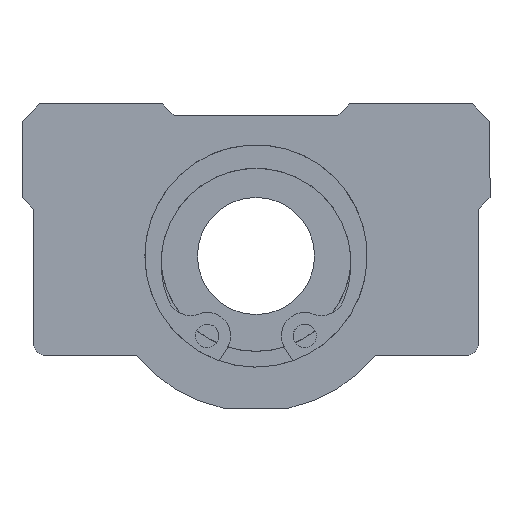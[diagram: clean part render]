
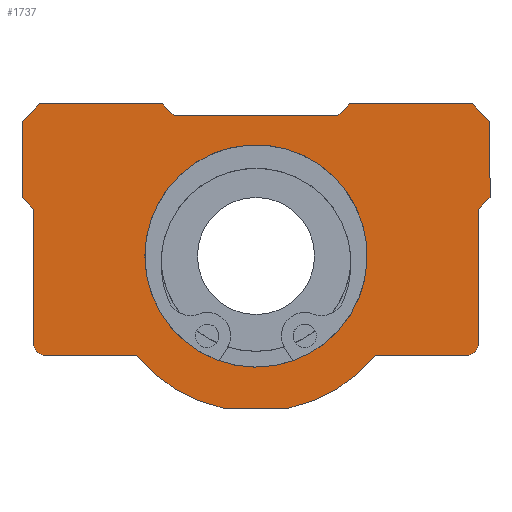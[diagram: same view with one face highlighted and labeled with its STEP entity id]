
A CAD part, left-side view. The second image highlights one B-rep face of the part: STEP entity #1737.
In plain terms, the highlighted planar face has unit normal (-1, 0, 0).
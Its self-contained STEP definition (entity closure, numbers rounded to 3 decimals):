
#1279=CARTESIAN_POINT('',(0.0,9.5,0.));
#1280=VERTEX_POINT('',#1279);
#1281=CARTESIAN_POINT('',(0.0,0.0,0.0));
#1282=DIRECTION('',(1.0,0.0,0.0));
#1283=DIRECTION('',(0.0,-1.0,0.0));
#1284=AXIS2_PLACEMENT_3D('',#1281,#1282,#1283);
#1285=CIRCLE('',#1284,9.5);
#1286=EDGE_CURVE('',#1280,#1280,#1285,.T.);
#1313=CARTESIAN_POINT('',(0.0,18.,-8.5));
#1314=VERTEX_POINT('',#1313);
#1321=CARTESIAN_POINT('',(0.0,19.,-7.5));
#1322=VERTEX_POINT('',#1321);
#1323=CARTESIAN_POINT('',(0.0,18.,-7.5));
#1324=DIRECTION('',(1.,0.0,0.0));
#1325=DIRECTION('',(0.0,0.707,-0.707));
#1326=AXIS2_PLACEMENT_3D('',#1323,#1324,#1325);
#1327=CIRCLE('',#1326,1.);
#1328=EDGE_CURVE('',#1314,#1322,#1327,.T.);
#1353=CARTESIAN_POINT('',(0.0,10.229,-8.5));
#1354=VERTEX_POINT('',#1353);
#1361=CARTESIAN_POINT('',(0.0,10.229,-8.5));
#1362=DIRECTION('',(0.0,1.0,0.0));
#1363=VECTOR('',#1362,7.771);
#1364=LINE('',#1361,#1363);
#1365=EDGE_CURVE('',#1354,#1314,#1364,.T.);
#1564=CARTESIAN_POINT('',(0.0,-19.,-7.5));
#1565=VERTEX_POINT('',#1564);
#1572=CARTESIAN_POINT('',(0.0,-18.,-8.5));
#1573=VERTEX_POINT('',#1572);
#1574=CARTESIAN_POINT('',(0.0,-18.,-7.5));
#1575=DIRECTION('',(1.,0.0,0.0));
#1576=DIRECTION('',(0.0,-0.707,-0.707));
#1577=AXIS2_PLACEMENT_3D('',#1574,#1575,#1576);
#1578=CIRCLE('',#1577,1.);
#1579=EDGE_CURVE('',#1565,#1573,#1578,.T.);
#1590=CARTESIAN_POINT('',(0.0,0.,1.154));
#1591=DIRECTION('',(1.0,0.0,0.0));
#1592=DIRECTION('',(0.0,0.0,-1.0));
#1593=AXIS2_PLACEMENT_3D('',#1590,#1591,#1592);
#1594=PLANE('',#1593);
#1595=ORIENTED_EDGE('',*,*,#1328,.F.);
#1596=ORIENTED_EDGE('',*,*,#1365,.F.);
#1597=CARTESIAN_POINT('',(0.0,2.809,-13.));
#1598=VERTEX_POINT('',#1597);
#1599=CARTESIAN_POINT('',(0.0,0.0,0.0));
#1600=DIRECTION('',(1.,0.0,0.0));
#1601=DIRECTION('',(0.0,0.211,-0.977));
#1602=AXIS2_PLACEMENT_3D('',#1599,#1600,#1601);
#1603=CIRCLE('',#1602,13.3);
#1604=EDGE_CURVE('',#1598,#1354,#1603,.T.);
#1605=ORIENTED_EDGE('',*,*,#1604,.F.);
#1606=CARTESIAN_POINT('',(0.0,-2.809,-13.));
#1607=VERTEX_POINT('',#1606);
#1608=CARTESIAN_POINT('',(0.0,-2.809,-13.));
#1609=DIRECTION('',(0.0,1.0,0.0));
#1610=VECTOR('',#1609,5.618);
#1611=LINE('',#1608,#1610);
#1612=EDGE_CURVE('',#1607,#1598,#1611,.T.);
#1613=ORIENTED_EDGE('',*,*,#1612,.F.);
#1614=CARTESIAN_POINT('',(0.0,-10.229,-8.5));
#1615=VERTEX_POINT('',#1614);
#1616=CARTESIAN_POINT('',(0.0,0.0,0.0));
#1617=DIRECTION('',(1.,0.0,0.0));
#1618=DIRECTION('',(0.0,0.211,-0.977));
#1619=AXIS2_PLACEMENT_3D('',#1616,#1617,#1618);
#1620=CIRCLE('',#1619,13.3);
#1621=EDGE_CURVE('',#1615,#1607,#1620,.T.);
#1622=ORIENTED_EDGE('',*,*,#1621,.F.);
#1623=CARTESIAN_POINT('',(0.0,-18.,-8.5));
#1624=DIRECTION('',(0.0,1.0,0.0));
#1625=VECTOR('',#1624,7.771);
#1626=LINE('',#1623,#1625);
#1627=EDGE_CURVE('',#1573,#1615,#1626,.T.);
#1628=ORIENTED_EDGE('',*,*,#1627,.F.);
#1629=ORIENTED_EDGE('',*,*,#1579,.F.);
#1630=CARTESIAN_POINT('',(0.0,-19.,4.));
#1631=VERTEX_POINT('',#1630);
#1632=CARTESIAN_POINT('',(0.0,-19.,4.));
#1633=DIRECTION('',(0.0,0.0,-1.0));
#1634=VECTOR('',#1633,11.5);
#1635=LINE('',#1632,#1634);
#1636=EDGE_CURVE('',#1631,#1565,#1635,.T.);
#1637=ORIENTED_EDGE('',*,*,#1636,.F.);
#1638=CARTESIAN_POINT('',(0.0,-20.0,5.));
#1639=VERTEX_POINT('',#1638);
#1640=CARTESIAN_POINT('',(0.0,-20.0,5.));
#1641=DIRECTION('',(0.0,0.707,-0.707));
#1642=VECTOR('',#1641,1.414);
#1643=LINE('',#1640,#1642);
#1644=EDGE_CURVE('',#1639,#1631,#1643,.T.);
#1645=ORIENTED_EDGE('',*,*,#1644,.F.);
#1646=CARTESIAN_POINT('',(0.0,-20.,11.5));
#1647=VERTEX_POINT('',#1646);
#1648=CARTESIAN_POINT('',(0.0,-20.,11.5));
#1649=DIRECTION('',(0.0,0.0,-1.0));
#1650=VECTOR('',#1649,6.5);
#1651=LINE('',#1648,#1650);
#1652=EDGE_CURVE('',#1647,#1639,#1651,.T.);
#1653=ORIENTED_EDGE('',*,*,#1652,.F.);
#1654=CARTESIAN_POINT('',(0.0,-18.5,13.));
#1655=VERTEX_POINT('',#1654);
#1656=CARTESIAN_POINT('',(0.0,-18.5,13.));
#1657=DIRECTION('',(0.0,-0.707,-0.707));
#1658=VECTOR('',#1657,2.121);
#1659=LINE('',#1656,#1658);
#1660=EDGE_CURVE('',#1655,#1647,#1659,.T.);
#1661=ORIENTED_EDGE('',*,*,#1660,.F.);
#1662=CARTESIAN_POINT('',(0.0,-8.,13.));
#1663=VERTEX_POINT('',#1662);
#1664=CARTESIAN_POINT('',(0.0,-8.,13.));
#1665=DIRECTION('',(0.0,-1.0,0.0));
#1666=VECTOR('',#1665,10.5);
#1667=LINE('',#1664,#1666);
#1668=EDGE_CURVE('',#1663,#1655,#1667,.T.);
#1669=ORIENTED_EDGE('',*,*,#1668,.F.);
#1670=CARTESIAN_POINT('',(0.0,-7.,12.));
#1671=VERTEX_POINT('',#1670);
#1672=CARTESIAN_POINT('',(0.0,-7.,12.));
#1673=DIRECTION('',(0.0,-0.707,0.707));
#1674=VECTOR('',#1673,1.414);
#1675=LINE('',#1672,#1674);
#1676=EDGE_CURVE('',#1671,#1663,#1675,.T.);
#1677=ORIENTED_EDGE('',*,*,#1676,.F.);
#1678=CARTESIAN_POINT('',(0.0,7.,12.));
#1679=VERTEX_POINT('',#1678);
#1680=CARTESIAN_POINT('',(0.0,7.,12.));
#1681=DIRECTION('',(0.0,-1.0,0.0));
#1682=VECTOR('',#1681,14.);
#1683=LINE('',#1680,#1682);
#1684=EDGE_CURVE('',#1679,#1671,#1683,.T.);
#1685=ORIENTED_EDGE('',*,*,#1684,.F.);
#1686=CARTESIAN_POINT('',(0.0,8.,13.));
#1687=VERTEX_POINT('',#1686);
#1688=CARTESIAN_POINT('',(0.0,8.,13.));
#1689=DIRECTION('',(0.0,-0.707,-0.707));
#1690=VECTOR('',#1689,1.414);
#1691=LINE('',#1688,#1690);
#1692=EDGE_CURVE('',#1687,#1679,#1691,.T.);
#1693=ORIENTED_EDGE('',*,*,#1692,.F.);
#1694=CARTESIAN_POINT('',(0.0,18.5,13.));
#1695=VERTEX_POINT('',#1694);
#1696=CARTESIAN_POINT('',(0.0,18.5,13.));
#1697=DIRECTION('',(0.0,-1.0,0.0));
#1698=VECTOR('',#1697,10.5);
#1699=LINE('',#1696,#1698);
#1700=EDGE_CURVE('',#1695,#1687,#1699,.T.);
#1701=ORIENTED_EDGE('',*,*,#1700,.F.);
#1702=CARTESIAN_POINT('',(0.0,20.,11.5));
#1703=VERTEX_POINT('',#1702);
#1704=CARTESIAN_POINT('',(0.0,20.,11.5));
#1705=DIRECTION('',(0.0,-0.707,0.707));
#1706=VECTOR('',#1705,2.121);
#1707=LINE('',#1704,#1706);
#1708=EDGE_CURVE('',#1703,#1695,#1707,.T.);
#1709=ORIENTED_EDGE('',*,*,#1708,.F.);
#1710=CARTESIAN_POINT('',(0.0,20.0,5.));
#1711=VERTEX_POINT('',#1710);
#1712=CARTESIAN_POINT('',(0.0,20.0,5.));
#1713=DIRECTION('',(0.0,0.0,1.0));
#1714=VECTOR('',#1713,6.5);
#1715=LINE('',#1712,#1714);
#1716=EDGE_CURVE('',#1711,#1703,#1715,.T.);
#1717=ORIENTED_EDGE('',*,*,#1716,.F.);
#1718=CARTESIAN_POINT('',(0.0,19.,4.));
#1719=VERTEX_POINT('',#1718);
#1720=CARTESIAN_POINT('',(0.0,19.,4.));
#1721=DIRECTION('',(0.0,0.707,0.707));
#1722=VECTOR('',#1721,1.414);
#1723=LINE('',#1720,#1722);
#1724=EDGE_CURVE('',#1719,#1711,#1723,.T.);
#1725=ORIENTED_EDGE('',*,*,#1724,.F.);
#1726=CARTESIAN_POINT('',(0.0,19.,-7.5));
#1727=DIRECTION('',(0.0,0.0,1.0));
#1728=VECTOR('',#1727,11.5);
#1729=LINE('',#1726,#1728);
#1730=EDGE_CURVE('',#1322,#1719,#1729,.T.);
#1731=ORIENTED_EDGE('',*,*,#1730,.F.);
#1732=EDGE_LOOP('',(#1595,#1596,#1605,#1613,#1622,#1628,#1629,#1637,#1645,#1653,#1661,#1669,#1677,#1685,#1693,#1701,#1709,#1717,#1725,#1731));
#1733=FACE_OUTER_BOUND('',#1732,.T.);
#1734=ORIENTED_EDGE('',*,*,#1286,.T.);
#1735=EDGE_LOOP('',(#1734));
#1736=FACE_BOUND('',#1735,.T.);
#1737=ADVANCED_FACE('',(#1733,#1736),#1594,.F.);
